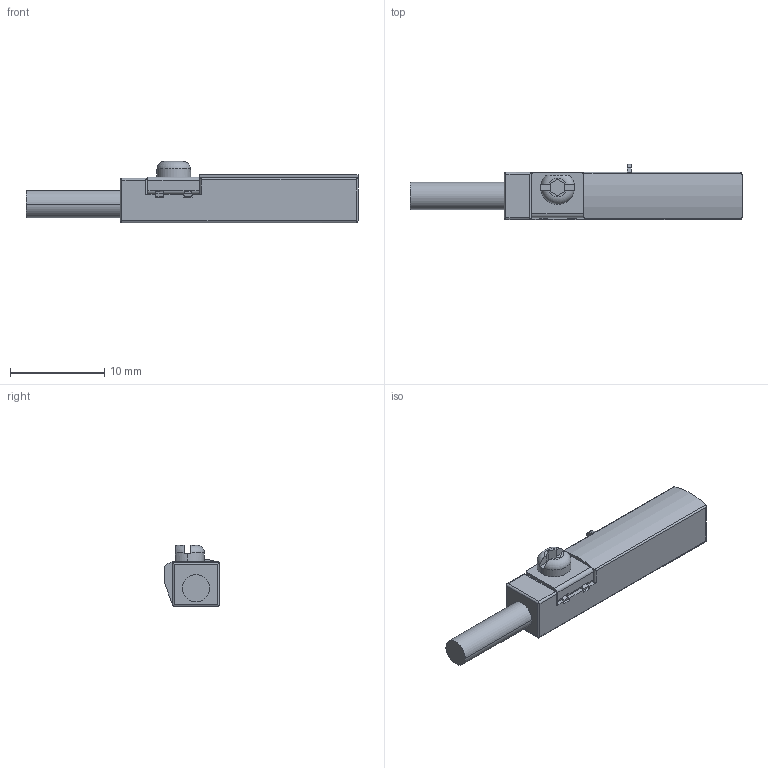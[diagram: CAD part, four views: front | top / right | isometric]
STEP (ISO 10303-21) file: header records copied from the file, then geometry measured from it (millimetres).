
FILE_DESCRIPTION( ( '' ), '1' );
FILE_NAME( '//expscmdclustefs.cadenas.external/client_exchange/iodir/jobs/output/wkb39658270_no0/STEP/mk5139_2_03_56fa68aab0d912ba39a93ed9979b71de.stp', '2011-12-01T08:00:38', ( '' ), ( '' ), ' ', ' ', ' ' );
FILE_SCHEMA( ( 'CONFIG_CONTROL_DESIGN' ) );
Length unit declared in the file: millimetre
Products named in the file (1): 1
Bounding box: 35.3 x 5.85 x 6.5 mm (x, y, z)
Volume: 678.5 mm3; surface area: 755 mm2
Topology: 1 solids, 4 shells, 191 faces, 546 edges, 358 vertices
Faces by surface type: plane 122, cylinder 67, torus 2
Entity records: 6403 total; most frequent: CARTESIAN_POINT 1231, ORIENTED_EDGE 1092, DIRECTION 1072, EDGE_CURVE 546, LINE 388, VECTOR 388, VERTEX_POINT 358, AXIS2_PLACEMENT_3D 342
